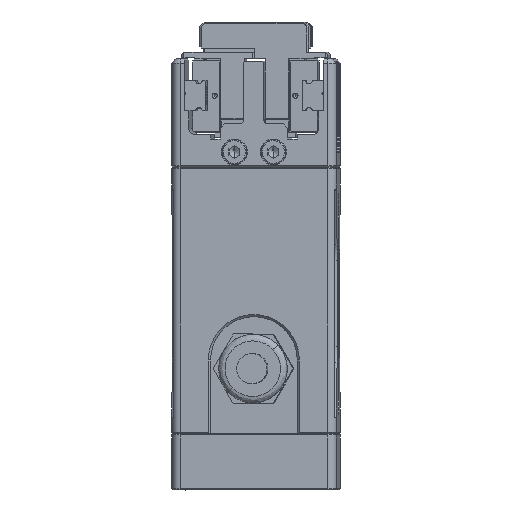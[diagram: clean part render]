
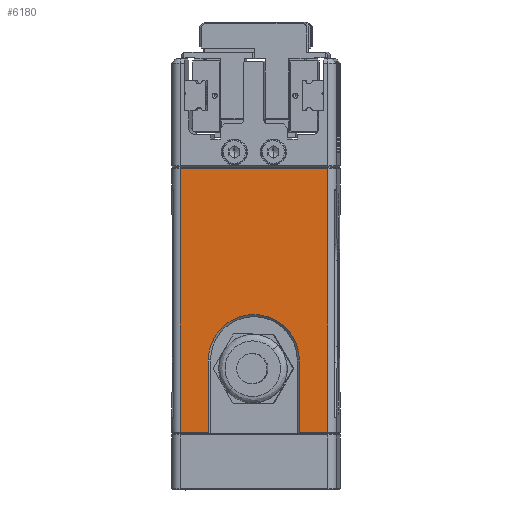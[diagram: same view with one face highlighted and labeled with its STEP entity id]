
A CAD part, left-side view. The second image highlights one B-rep face of the part: STEP entity #6180.
In plain terms, the highlighted planar face has unit normal (-1, 0.015, 0).
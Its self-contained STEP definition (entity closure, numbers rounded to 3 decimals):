
#137 = LINE ( 'NONE', #33506, #33122 ) ;
#703 = VECTOR ( 'NONE', #13643, 1000. ) ;
#722 = ORIENTED_EDGE ( 'NONE', *, *, #6396, .F. ) ;
#791 = VERTEX_POINT ( 'NONE', #26083 ) ;
#974 = CARTESIAN_POINT ( 'NONE',  ( -34.273, -18.713, -17.711 ) ) ;
#1685 = ORIENTED_EDGE ( 'NONE', *, *, #21220, .F. ) ;
#2011 = ORIENTED_EDGE ( 'NONE', *, *, #34617, .F. ) ;
#2526 = LINE ( 'NONE', #974, #11769 ) ;
#3767 = AXIS2_PLACEMENT_3D ( 'NONE', #29748, #19312, #33445 ) ;
#4508 = ORIENTED_EDGE ( 'NONE', *, *, #11915, .F. ) ;
#4573 = CIRCLE ( 'NONE', #7245, 10.5 ) ;
#5724 = VECTOR ( 'NONE', #11722, 1000. ) ;
#6097 = VERTEX_POINT ( 'NONE', #23972 ) ;
#6180 = ADVANCED_FACE ( 'NONE', ( #10014 ), #15626, .F. ) ;
#6323 = CARTESIAN_POINT ( 'NONE',  ( -33.998, 0.285, -1.011 ) ) ;
#6396 = EDGE_CURVE ( 'NONE', #6097, #791, #2526, .T. ) ;
#6910 = VERTEX_POINT ( 'NONE', #18591 ) ;
#7245 = AXIS2_PLACEMENT_3D ( 'NONE', #6323, #20438, #26080 ) ;
#7793 = CARTESIAN_POINT ( 'NONE',  ( -34.244, -16.713, 43.189 ) ) ;
#8919 = CARTESIAN_POINT ( 'NONE',  ( -34.273, -18.713, -17.711 ) ) ;
#9252 = CARTESIAN_POINT ( 'NONE',  ( -34.244, -16.713, -17.711 ) ) ;
#9966 = VECTOR ( 'NONE', #23195, 1000. ) ;
#10014 = FACE_OUTER_BOUND ( 'NONE', #31557, .T. ) ;
#10781 = DIRECTION ( 'NONE',  ( 0., 0., -1. ) ) ;
#11030 = VERTEX_POINT ( 'NONE', #30654 ) ;
#11722 = DIRECTION ( 'NONE',  ( 0.014, 1., 0. ) ) ;
#11769 = VECTOR ( 'NONE', #14891, 1000. ) ;
#11915 = EDGE_CURVE ( 'NONE', #31384, #6910, #4573, .T. ) ;
#12436 = DIRECTION ( 'NONE',  ( 0., 0., 1. ) ) ;
#13482 = LINE ( 'NONE', #17774, #9966 ) ;
#13643 = DIRECTION ( 'NONE',  ( 0., 0., 1. ) ) ;
#14634 = CARTESIAN_POINT ( 'NONE',  ( -34.15, -10.214, -17.711 ) ) ;
#14891 = DIRECTION ( 'NONE',  ( 0.014, 1., 0. ) ) ;
#15153 = CARTESIAN_POINT ( 'NONE',  ( -34.15, -10.214, -18.011 ) ) ;
#15626 = PLANE ( 'NONE',  #3767 ) ;
#16103 = LINE ( 'NONE', #30461, #703 ) ;
#16651 = LINE ( 'NONE', #24831, #22375 ) ;
#16973 = ORIENTED_EDGE ( 'NONE', *, *, #34380, .F. ) ;
#17046 = VERTEX_POINT ( 'NONE', #9252 ) ;
#17774 = CARTESIAN_POINT ( 'NONE',  ( -33.846, 10.784, -18.011 ) ) ;
#18591 = CARTESIAN_POINT ( 'NONE',  ( -33.846, 10.784, -1.011 ) ) ;
#19312 = DIRECTION ( 'NONE',  ( 1., -0.014, 0. ) ) ;
#19972 = ORIENTED_EDGE ( 'NONE', *, *, #26171, .F. ) ;
#20438 = DIRECTION ( 'NONE',  ( -1., 0.014, 0. ) ) ;
#21220 = EDGE_CURVE ( 'NONE', #35023, #31384, #24725, .T. ) ;
#22375 = VECTOR ( 'NONE', #27679, 1000. ) ;
#23195 = DIRECTION ( 'NONE',  ( 0., 0., -1. ) ) ;
#23390 = VECTOR ( 'NONE', #12436, 1000. ) ;
#23526 = EDGE_CURVE ( 'NONE', #11030, #30005, #16651, .T. ) ;
#23972 = CARTESIAN_POINT ( 'NONE',  ( -33.846, 10.784, -17.711 ) ) ;
#24725 = LINE ( 'NONE', #15153, #23390 ) ;
#24831 = CARTESIAN_POINT ( 'NONE',  ( -34.383, -26.312, 43.189 ) ) ;
#26080 = DIRECTION ( 'NONE',  ( 0., 0., -1. ) ) ;
#26083 = CARTESIAN_POINT ( 'NONE',  ( -33.752, 17.283, -17.711 ) ) ;
#26171 = EDGE_CURVE ( 'NONE', #30005, #17046, #137, .T. ) ;
#27649 = ORIENTED_EDGE ( 'NONE', *, *, #28574, .F. ) ;
#27679 = DIRECTION ( 'NONE',  ( -0.014, -1., 0. ) ) ;
#28567 = LINE ( 'NONE', #8919, #5724 ) ;
#28574 = EDGE_CURVE ( 'NONE', #17046, #35023, #28567, .T. ) ;
#29748 = CARTESIAN_POINT ( 'NONE',  ( -34.273, -18.713, -18.011 ) ) ;
#30005 = VERTEX_POINT ( 'NONE', #7793 ) ;
#30461 = CARTESIAN_POINT ( 'NONE',  ( -33.752, 17.283, -18.011 ) ) ;
#30654 = CARTESIAN_POINT ( 'NONE',  ( -33.752, 17.283, 43.189 ) ) ;
#30948 = ORIENTED_EDGE ( 'NONE', *, *, #23526, .F. ) ;
#31384 = VERTEX_POINT ( 'NONE', #34094 ) ;
#31557 = EDGE_LOOP ( 'NONE', ( #30948, #16973, #722, #2011, #4508, #1685, #27649, #19972 ) ) ;
#33122 = VECTOR ( 'NONE', #10781, 1000. ) ;
#33445 = DIRECTION ( 'NONE',  ( 0., 0., 1. ) ) ;
#33506 = CARTESIAN_POINT ( 'NONE',  ( -34.244, -16.713, 12.739 ) ) ;
#34094 = CARTESIAN_POINT ( 'NONE',  ( -34.15, -10.214, -1.011 ) ) ;
#34380 = EDGE_CURVE ( 'NONE', #791, #11030, #16103, .T. ) ;
#34617 = EDGE_CURVE ( 'NONE', #6910, #6097, #13482, .T. ) ;
#35023 = VERTEX_POINT ( 'NONE', #14634 ) ;
